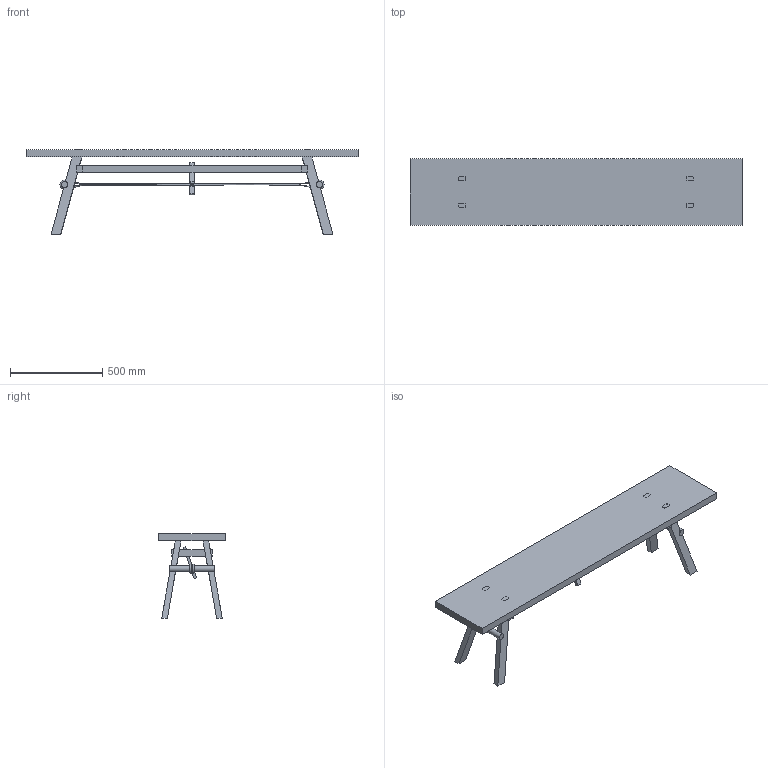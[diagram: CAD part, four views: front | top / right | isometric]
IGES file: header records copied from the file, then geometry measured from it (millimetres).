
Start section: Data from Parasolid IGES Translator 17.0.49, Copyright(c) 2006 Siemens P LM Software. All Rights Reserved.
Global section: file name: Jan.igs; native system: By Siemens PLM Incorporated; preprocessor: XPlus GENERIC/IGES 17.0.49; author: Noname; organization: Noname; date: 20170604.141934; units: metre
Bounding box: 1800 x 360 x 460 mm (x, y, z)
Volume: 31224398.9 mm3; surface area: 2181218.9 mm2
Topology: 36 solids, 36 shells, 249 faces, 496 edges, 307 vertices
Faces by surface type: plane 136, cylinder 59, torus 46, extrusion 8
Full cylindrical faces by diameter (mm): 8 x1, 34 x2
